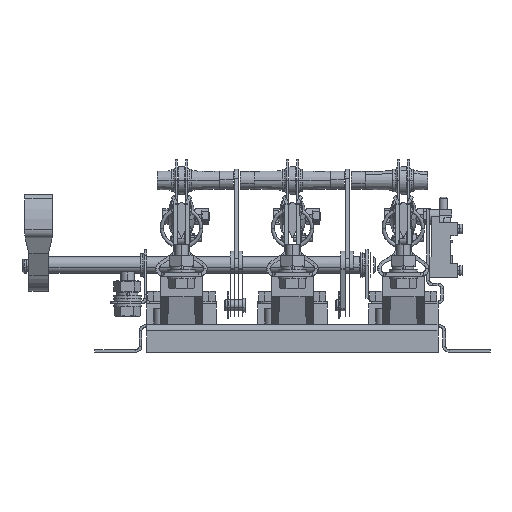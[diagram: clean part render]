
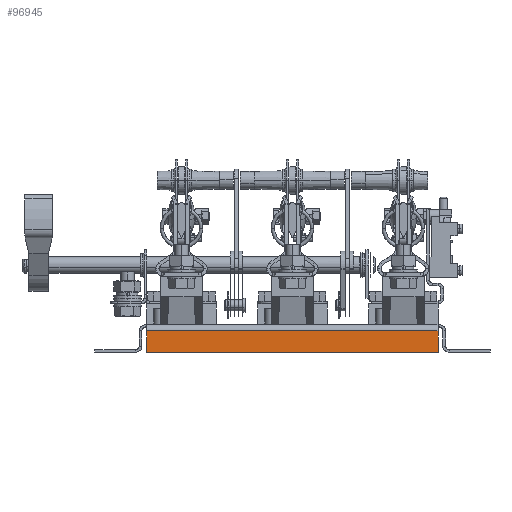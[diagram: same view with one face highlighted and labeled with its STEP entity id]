
A CAD part, front view. The second image highlights one B-rep face of the part: STEP entity #96945.
In plain terms, the highlighted planar face has unit normal (0, -1, 0).
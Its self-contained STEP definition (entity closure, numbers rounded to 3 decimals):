
#5911 = VECTOR ( 'NONE', #80353, 1000. ) ;
#9617 = CARTESIAN_POINT ( 'NONE',  ( -105., -64.5, 0. ) ) ;
#14002 = EDGE_CURVE ( 'NONE', #15370, #61715, #45966, .T. ) ;
#15370 = VERTEX_POINT ( 'NONE', #46620 ) ;
#16554 = DIRECTION ( 'NONE',  ( 0., -1., 0. ) ) ;
#19811 = EDGE_CURVE ( 'NONE', #15370, #51709, #96948, .T. ) ;
#20160 = VECTOR ( 'NONE', #32401, 1000. ) ;
#20422 = CARTESIAN_POINT ( 'NONE',  ( 105., -64.5, -18. ) ) ;
#24158 = EDGE_CURVE ( 'NONE', #51709, #81393, #35727, .T. ) ;
#32401 = DIRECTION ( 'NONE',  ( -1., 0., 0. ) ) ;
#35727 = LINE ( 'NONE', #94149, #20160 ) ;
#36963 = LINE ( 'NONE', #40870, #5911 ) ;
#40870 = CARTESIAN_POINT ( 'NONE',  ( -105., -64.5, 0. ) ) ;
#41049 = VECTOR ( 'NONE', #77087, 1000. ) ;
#41880 = ORIENTED_EDGE ( 'NONE', *, *, #78126, .F. ) ;
#41890 = FACE_OUTER_BOUND ( 'NONE', #86195, .T. ) ;
#45966 = LINE ( 'NONE', #54297, #41049 ) ;
#46620 = CARTESIAN_POINT ( 'NONE',  ( 105., -64.5, -2.5 ) ) ;
#46642 = ORIENTED_EDGE ( 'NONE', *, *, #24158, .F. ) ;
#51709 = VERTEX_POINT ( 'NONE', #62763 ) ;
#54297 = CARTESIAN_POINT ( 'NONE',  ( -105., -64.5, -2.5 ) ) ;
#60686 = CARTESIAN_POINT ( 'NONE',  ( -105., -64.5, -2.5 ) ) ;
#61715 = VERTEX_POINT ( 'NONE', #60686 ) ;
#62763 = CARTESIAN_POINT ( 'NONE',  ( 105., -64.5, -18. ) ) ;
#73466 = ORIENTED_EDGE ( 'NONE', *, *, #19811, .F. ) ;
#74374 = CARTESIAN_POINT ( 'NONE',  ( -105., -64.5, -18. ) ) ;
#74456 = DIRECTION ( 'NONE',  ( 0., 0., -1. ) ) ;
#75293 = VECTOR ( 'NONE', #74456, 1000. ) ;
#77087 = DIRECTION ( 'NONE',  ( -1., 0., 0. ) ) ;
#77834 = AXIS2_PLACEMENT_3D ( 'NONE', #9617, #16554, #78284 ) ;
#78126 = EDGE_CURVE ( 'NONE', #81393, #61715, #36963, .T. ) ;
#78284 = DIRECTION ( 'NONE',  ( 0., 0., -1. ) ) ;
#80353 = DIRECTION ( 'NONE',  ( 0., 0., 1. ) ) ;
#81393 = VERTEX_POINT ( 'NONE', #74374 ) ;
#85312 = PLANE ( 'NONE',  #77834 ) ;
#86195 = EDGE_LOOP ( 'NONE', ( #73466, #93215, #41880, #46642 ) ) ;
#93215 = ORIENTED_EDGE ( 'NONE', *, *, #14002, .T. ) ;
#94149 = CARTESIAN_POINT ( 'NONE',  ( -105., -64.5, -18. ) ) ;
#96945 = ADVANCED_FACE ( 'NONE', ( #41890 ), #85312, .T. ) ;
#96948 = LINE ( 'NONE', #20422, #75293 ) ;
